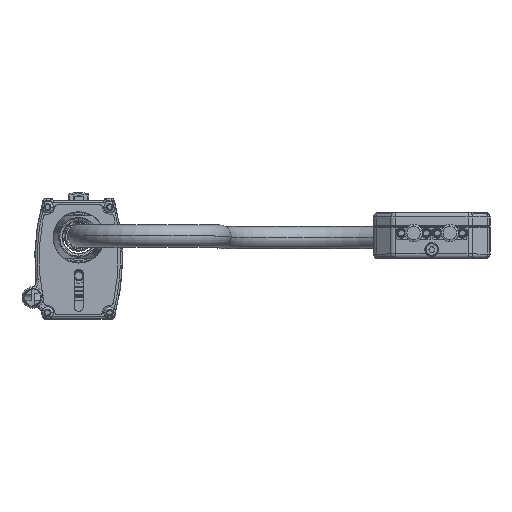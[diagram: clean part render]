
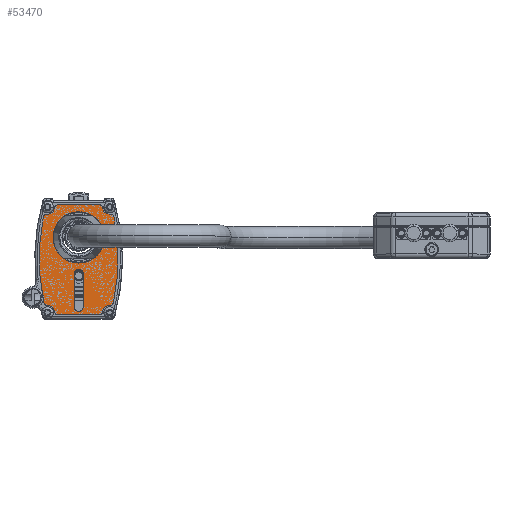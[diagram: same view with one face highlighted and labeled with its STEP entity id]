
A CAD part, top view. The second image highlights one B-rep face of the part: STEP entity #53470.
In plain terms, the highlighted planar face has unit normal (0, 0, 1).
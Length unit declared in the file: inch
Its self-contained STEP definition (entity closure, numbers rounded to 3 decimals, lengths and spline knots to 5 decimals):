
#52301=CARTESIAN_POINT('',(-0.45112,0.58041,0.0646));
#52302=DIRECTION('',(0.,0.,1.));
#52303=DIRECTION('',(0.074,0.997,0.));
#52304=AXIS2_PLACEMENT_3D('',#52301,#52302,#52303);
#52306=CARTESIAN_POINT('',(-0.44,0.73,0.0646));
#52307=DIRECTION('',(0.,0.,-1.));
#52308=DIRECTION('',(0.995,-0.1,0.));
#52309=AXIS2_PLACEMENT_3D('',#52306,#52307,#52308);
#52311=CARTESIAN_POINT('',(-0.29075,0.715,0.0646));
#52312=DIRECTION('',(0.,0.,1.));
#52313=DIRECTION('',(0.,1.,0.));
#52314=AXIS2_PLACEMENT_3D('',#52311,#52312,#52313);
#52316=DIRECTION('',(-1.,0.,0.));
#52317=VECTOR('',#52316,0.5815);
#52318=CARTESIAN_POINT('',(0.29075,0.765,0.0646));
#52319=LINE('',#52318,#52317);
#52320=CARTESIAN_POINT('',(0.29075,0.715,0.0646));
#52321=DIRECTION('',(0.,0.,1.));
#52322=DIRECTION('',(0.995,0.1,0.));
#52323=AXIS2_PLACEMENT_3D('',#52320,#52321,#52322);
#52325=CARTESIAN_POINT('',(0.44,0.73,0.0646));
#52326=DIRECTION('',(0.,0.,-1.));
#52327=DIRECTION('',(0.074,-0.997,0.));
#52328=AXIS2_PLACEMENT_3D('',#52325,#52326,#52327);
#52330=CARTESIAN_POINT('',(0.45112,0.58041,0.0646));
#52331=DIRECTION('',(0.,0.,1.));
#52332=DIRECTION('',(0.98,0.201,0.));
#52333=AXIS2_PLACEMENT_3D('',#52330,#52331,#52332);
#52335=CARTESIAN_POINT('',(-2.38,0.,0.0646));
#52336=DIRECTION('',(0.,0.,1.));
#52337=DIRECTION('',(0.977,-0.213,0.));
#52338=AXIS2_PLACEMENT_3D('',#52335,#52336,#52337);
#52340=CARTESIAN_POINT('',(0.44379,-0.61505,0.0646));
#52341=DIRECTION('',(0.,0.,1.));
#52342=DIRECTION('',(-0.025,-1.,0.));
#52343=AXIS2_PLACEMENT_3D('',#52340,#52341,#52342);
#52345=CARTESIAN_POINT('',(0.44,-0.765,0.0646));
#52346=DIRECTION('',(0.,0.,-1.));
#52347=DIRECTION('',(-0.991,0.133,0.));
#52348=AXIS2_PLACEMENT_3D('',#52345,#52346,#52347);
#52350=CARTESIAN_POINT('',(0.29134,-0.745,0.0646));
#52351=DIRECTION('',(0.,0.,1.));
#52352=DIRECTION('',(0.,-1.,0.));
#52353=AXIS2_PLACEMENT_3D('',#52350,#52351,#52352);
#52355=DIRECTION('',(1.,0.,0.));
#52356=VECTOR('',#52355,0.58268);
#52357=CARTESIAN_POINT('',(-0.29134,-0.795,0.0646));
#52358=LINE('',#52357,#52356);
#52359=CARTESIAN_POINT('',(-0.29134,-0.745,0.0646));
#52360=DIRECTION('',(0.,0.,1.));
#52361=DIRECTION('',(-0.991,-0.133,0.));
#52362=AXIS2_PLACEMENT_3D('',#52359,#52360,#52361);
#52364=CARTESIAN_POINT('',(-0.44,-0.765,0.0646));
#52365=DIRECTION('',(0.,0.,-1.));
#52366=DIRECTION('',(-0.025,1.,0.));
#52367=AXIS2_PLACEMENT_3D('',#52364,#52365,#52366);
#52369=CARTESIAN_POINT('',(-0.44379,-0.61505,0.0646));
#52370=DIRECTION('',(0.,0.,1.));
#52371=DIRECTION('',(-0.977,-0.213,0.));
#52372=AXIS2_PLACEMENT_3D('',#52369,#52370,#52371);
#52374=CARTESIAN_POINT('',(2.38,0.,0.0646));
#52375=DIRECTION('',(0.,0.,1.));
#52376=DIRECTION('',(-0.98,0.201,0.));
#52377=AXIS2_PLACEMENT_3D('',#52374,#52375,#52376);
#52379=DIRECTION('',(0.,1.,0.));
#52380=VECTOR('',#52379,0.23238);
#52381=CARTESIAN_POINT('',(-0.2575,0.18381,0.0646));
#52382=LINE('',#52381,#52380);
#52383=CARTESIAN_POINT('',(0.,0.3,0.0646));
#52384=DIRECTION('',(0.,0.,-1.));
#52385=DIRECTION('',(-0.912,0.411,0.));
#52386=AXIS2_PLACEMENT_3D('',#52383,#52384,#52385);
#52388=DIRECTION('',(0.,1.,0.));
#52389=VECTOR('',#52388,0.475);
#52390=CARTESIAN_POINT('',(-0.0625,-0.685,0.0646));
#52391=LINE('',#52390,#52389);
#52392=CARTESIAN_POINT('',(0.,-0.685,0.0646));
#52393=DIRECTION('',(0.,0.,-1.));
#52394=DIRECTION('',(1.,0.,0.));
#52395=AXIS2_PLACEMENT_3D('',#52392,#52393,#52394);
#52397=DIRECTION('',(0.,-1.,0.));
#52398=VECTOR('',#52397,0.475);
#52399=CARTESIAN_POINT('',(0.0625,-0.21,0.0646));
#52400=LINE('',#52399,#52398);
#52401=CARTESIAN_POINT('',(0.,-0.21,0.0646));
#52402=DIRECTION('',(0.,0.,-1.));
#52403=DIRECTION('',(-1.,0.,0.));
#52404=AXIS2_PLACEMENT_3D('',#52401,#52402,#52403);
#52897=CARTESIAN_POINT('',(-0.44741,0.63027,0.0646));
#52898=CARTESIAN_POINT('',(-0.5001,0.59045,0.0646));
#52899=VERTEX_POINT('',#52897);
#52900=VERTEX_POINT('',#52898);
#52905=CARTESIAN_POINT('',(-0.29075,0.765,0.0646));
#52906=CARTESIAN_POINT('',(-0.3405,0.72,0.0646));
#52907=VERTEX_POINT('',#52905);
#52908=VERTEX_POINT('',#52906);
#52913=CARTESIAN_POINT('',(0.3405,0.72,0.0646));
#52914=CARTESIAN_POINT('',(0.29075,0.765,0.0646));
#52915=VERTEX_POINT('',#52913);
#52916=VERTEX_POINT('',#52914);
#52921=CARTESIAN_POINT('',(0.5001,0.59045,0.0646));
#52922=CARTESIAN_POINT('',(0.44741,0.63027,0.0646));
#52923=VERTEX_POINT('',#52921);
#52924=VERTEX_POINT('',#52922);
#52929=CARTESIAN_POINT('',(0.44253,-0.66503,0.0646));
#52930=CARTESIAN_POINT('',(0.49265,-0.62569,0.0646));
#52931=VERTEX_POINT('',#52929);
#52932=VERTEX_POINT('',#52930);
#52937=CARTESIAN_POINT('',(0.29134,-0.795,0.0646));
#52938=CARTESIAN_POINT('',(0.34089,-0.75167,0.0646));
#52939=VERTEX_POINT('',#52937);
#52940=VERTEX_POINT('',#52938);
#52945=CARTESIAN_POINT('',(-0.34089,-0.75167,0.0646));
#52946=CARTESIAN_POINT('',(-0.29134,-0.795,0.0646));
#52947=VERTEX_POINT('',#52945);
#52948=VERTEX_POINT('',#52946);
#52953=CARTESIAN_POINT('',(-0.49265,-0.62569,0.0646));
#52954=CARTESIAN_POINT('',(-0.44253,-0.66503,0.0646));
#52955=VERTEX_POINT('',#52953);
#52956=VERTEX_POINT('',#52954);
#53038=CARTESIAN_POINT('',(-0.2575,0.18381,0.0646));
#53039=CARTESIAN_POINT('',(-0.2575,0.41619,0.0646));
#53040=VERTEX_POINT('',#53038);
#53041=VERTEX_POINT('',#53039);
#53050=CARTESIAN_POINT('',(-0.0625,-0.685,0.0646));
#53051=CARTESIAN_POINT('',(-0.0625,-0.21,0.0646));
#53052=VERTEX_POINT('',#53050);
#53053=VERTEX_POINT('',#53051);
#53054=CARTESIAN_POINT('',(0.0625,-0.21,0.0646));
#53055=CARTESIAN_POINT('',(0.0625,-0.685,0.0646));
#53056=VERTEX_POINT('',#53054);
#53057=VERTEX_POINT('',#53055);
#53417=CARTESIAN_POINT('',(0.,0.,0.0646));
#53418=DIRECTION('',(0.,0.,1.));
#53419=DIRECTION('',(1.,0.,0.));
#53420=AXIS2_PLACEMENT_3D('',#53417,#53418,#53419);
#53421=PLANE('',#53420);
#53423=ORIENTED_EDGE('',*,*,#53422,.F.);
#53425=ORIENTED_EDGE('',*,*,#53424,.F.);
#53426=ORIENTED_EDGE('',*,*,#53408,.F.);
#53427=ORIENTED_EDGE('',*,*,#53398,.F.);
#53429=ORIENTED_EDGE('',*,*,#53428,.F.);
#53431=ORIENTED_EDGE('',*,*,#53430,.F.);
#53433=ORIENTED_EDGE('',*,*,#53432,.F.);
#53435=ORIENTED_EDGE('',*,*,#53434,.F.);
#53437=ORIENTED_EDGE('',*,*,#53436,.F.);
#53439=ORIENTED_EDGE('',*,*,#53438,.F.);
#53441=ORIENTED_EDGE('',*,*,#53440,.F.);
#53443=ORIENTED_EDGE('',*,*,#53442,.F.);
#53445=ORIENTED_EDGE('',*,*,#53444,.F.);
#53447=ORIENTED_EDGE('',*,*,#53446,.F.);
#53449=ORIENTED_EDGE('',*,*,#53448,.F.);
#53451=ORIENTED_EDGE('',*,*,#53450,.F.);
#53452=EDGE_LOOP('',(#53423,#53425,#53426,#53427,#53429,#53431,#53433,#53435,
#53437,#53439,#53441,#53443,#53445,#53447,#53449,#53451));
#53453=FACE_OUTER_BOUND('',#53452,.F.);
#53455=ORIENTED_EDGE('',*,*,#53454,.F.);
#53457=ORIENTED_EDGE('',*,*,#53456,.F.);
#53458=EDGE_LOOP('',(#53455,#53457));
#53459=FACE_BOUND('',#53458,.F.);
#53461=ORIENTED_EDGE('',*,*,#53460,.F.);
#53463=ORIENTED_EDGE('',*,*,#53462,.F.);
#53465=ORIENTED_EDGE('',*,*,#53464,.F.);
#53467=ORIENTED_EDGE('',*,*,#53466,.F.);
#53468=EDGE_LOOP('',(#53461,#53463,#53465,#53467));
#53469=FACE_BOUND('',#53468,.F.);
#53470=ADVANCED_FACE('',(#53453,#53459,#53469),#53421,.T.);
#52305=CIRCLE('',#52304,0.05);
#52310=CIRCLE('',#52309,0.1);
#52315=CIRCLE('',#52314,0.05);
#52324=CIRCLE('',#52323,0.05);
#52329=CIRCLE('',#52328,0.1);
#52334=CIRCLE('',#52333,0.05);
#52339=CIRCLE('',#52338,2.94);
#52344=CIRCLE('',#52343,0.05);
#52349=CIRCLE('',#52348,0.1);
#52354=CIRCLE('',#52353,0.05);
#52363=CIRCLE('',#52362,0.05);
#52368=CIRCLE('',#52367,0.1);
#52373=CIRCLE('',#52372,0.05);
#52378=CIRCLE('',#52377,2.94);
#52387=CIRCLE('',#52386,0.2825);
#52396=CIRCLE('',#52395,0.0625);
#52405=CIRCLE('',#52404,0.0625);
#53398=EDGE_CURVE('',#52916,#52907,#52319,.T.);
#53408=EDGE_CURVE('',#52907,#52908,#52315,.T.);
#53422=EDGE_CURVE('',#52899,#52900,#52305,.T.);
#53424=EDGE_CURVE('',#52908,#52899,#52310,.T.);
#53428=EDGE_CURVE('',#52915,#52916,#52324,.T.);
#53430=EDGE_CURVE('',#52924,#52915,#52329,.T.);
#53432=EDGE_CURVE('',#52923,#52924,#52334,.T.);
#53434=EDGE_CURVE('',#52932,#52923,#52339,.T.);
#53436=EDGE_CURVE('',#52931,#52932,#52344,.T.);
#53438=EDGE_CURVE('',#52940,#52931,#52349,.T.);
#53440=EDGE_CURVE('',#52939,#52940,#52354,.T.);
#53442=EDGE_CURVE('',#52948,#52939,#52358,.T.);
#53444=EDGE_CURVE('',#52947,#52948,#52363,.T.);
#53446=EDGE_CURVE('',#52956,#52947,#52368,.T.);
#53448=EDGE_CURVE('',#52955,#52956,#52373,.T.);
#53450=EDGE_CURVE('',#52900,#52955,#52378,.T.);
#53454=EDGE_CURVE('',#53040,#53041,#52382,.T.);
#53456=EDGE_CURVE('',#53041,#53040,#52387,.T.);
#53460=EDGE_CURVE('',#53052,#53053,#52391,.T.);
#53462=EDGE_CURVE('',#53057,#53052,#52396,.T.);
#53464=EDGE_CURVE('',#53056,#53057,#52400,.T.);
#53466=EDGE_CURVE('',#53053,#53056,#52405,.T.);
